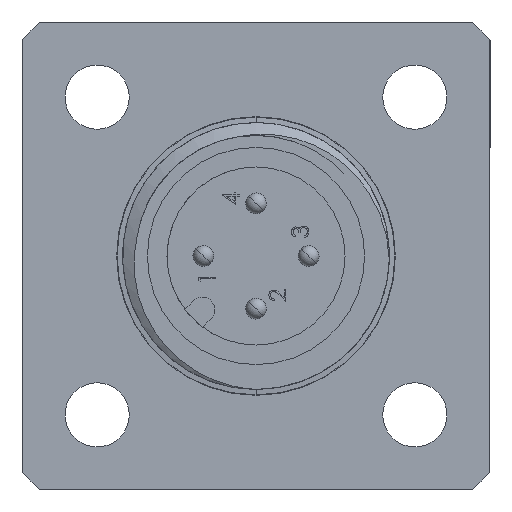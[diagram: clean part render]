
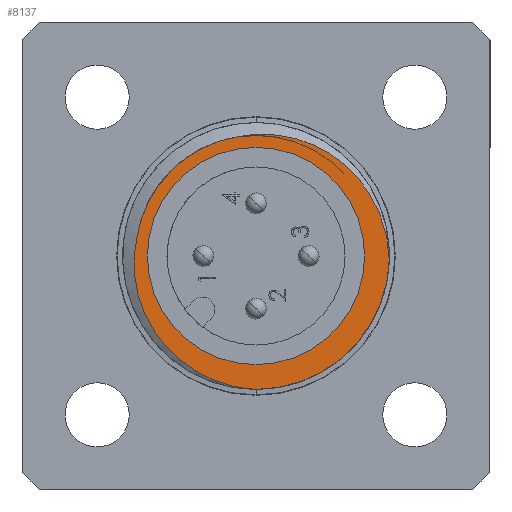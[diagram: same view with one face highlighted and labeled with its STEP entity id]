
A CAD part, left-side view. The second image highlights one B-rep face of the part: STEP entity #8137.
In plain terms, the highlighted planar face has unit normal (-1, 0, 0).
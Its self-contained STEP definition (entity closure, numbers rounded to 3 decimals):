
#104 = CARTESIAN_POINT ( 'NONE',  ( 0., 0., 5.156 ) ) ;
#415 = CARTESIAN_POINT ( 'NONE',  ( 0., 0., -6.333 ) ) ;
#855 = AXIS2_PLACEMENT_3D ( 'NONE', #2556, #2557, #2558 ) ;
#1025 = CIRCLE ( 'NONE', #1027, 5.156 ) ;
#1027 = AXIS2_PLACEMENT_3D ( 'NONE', #5038, #5039, #5040 ) ;
#1213 = VERTEX_POINT ( 'NONE', #1336 ) ;
#1215 = VERTEX_POINT ( 'NONE', #7822 ) ;
#1229 = VERTEX_POINT ( 'NONE', #7979 ) ;
#1336 = CARTESIAN_POINT ( 'NONE',  ( 0., -6.331, -0.176 ) ) ;
#1365 = EDGE_LOOP ( 'NONE', ( #3787, #8441, #8566, #3491 ) ) ;
#1574 = EDGE_LOOP ( 'NONE', ( #3496, #8468 ) ) ;
#1790 = CIRCLE ( 'NONE', #1794, 6.333 ) ;
#1792 = CIRCLE ( 'NONE', #1795, 5.156 ) ;
#1794 = AXIS2_PLACEMENT_3D ( 'NONE', #7360, #7361, #7362 ) ;
#1795 = AXIS2_PLACEMENT_3D ( 'NONE', #7421, #7422, #7423 ) ;
#2544 = FACE_OUTER_BOUND ( 'NONE', #1365, .T. ) ;
#2546 = FACE_BOUND ( 'NONE', #1574, .T. ) ;
#2547 = PLANE ( 'NONE',  #855 ) ;
#2556 = CARTESIAN_POINT ( 'NONE',  ( 0., 4.877, 0. ) ) ;
#2557 = DIRECTION ( 'NONE',  ( 1., 0., 0. ) ) ;
#2558 = DIRECTION ( 'NONE',  ( 0., 0., -1. ) ) ;
#2986 = B_SPLINE_CURVE_WITH_KNOTS ( 'NONE', 3,
 ( #7386, #7385, #7402, #7403, #7404, #7405, #7406, #7407, #7408, #7409, #7410, #7411, #7412, #7413, #7414, #7415, #7416, #7417, #7418, #7419 ),
 .UNSPECIFIED., .F., .F.,
 ( 4, 2, 2, 2, 2, 2, 2, 2, 2, 4 ),
 ( 0., 0.001, 0.002, 0.003, 0.004, 0.005, 0.007, 0.008, 0.009, 0.01 ),
 .UNSPECIFIED. ) ;
#2987 = B_SPLINE_CURVE_WITH_KNOTS ( 'NONE', 3,
 ( #7336, #7363, #7387, #7388, #7389, #7390, #7391, #7392, #7393, #7394, #7395, #7396, #7397, #7398, #7399, #7400 ),
 .UNSPECIFIED., .F., .F.,
 ( 4, 2, 2, 2, 2, 2, 2, 4 ),
 ( 0., 0.001, 0.002, 0.003, 0.004, 0.005, 0.005, 0.007 ),
 .UNSPECIFIED. ) ;
#2989 = B_SPLINE_CURVE_WITH_KNOTS ( 'NONE', 3,
 ( #7352, #7359, #7364, #7365, #7366, #7367, #7368, #7369, #7370, #7371, #7372, #7373, #7374, #7375, #7376, #7377, #7378, #7379, #7380, #7381, #7382, #7383, #7384 ),
 .UNSPECIFIED., .F., .F.,
 ( 4, 2, 2, 2, 2, 2, 1, 2, 2, 2, 2, 4 ),
 ( 0., 0.002, 0.003, 0.004, 0.006, 0.006, 0.007, 0.008, 0.008, 0.01, 0.01, 0.011 ),
 .UNSPECIFIED. ) ;
#3491 = ORIENTED_EDGE ( 'NONE', *, *, #3568, .T. ) ;
#3496 = ORIENTED_EDGE ( 'NONE', *, *, #8044, .F. ) ;
#3563 = EDGE_CURVE ( 'NONE', #8378, #1213, #1790, .T. ) ;
#3564 = EDGE_CURVE ( 'NONE', #1213, #1215, #2989, .T. ) ;
#3565 = EDGE_CURVE ( 'NONE', #1215, #1229, #2987, .T. ) ;
#3568 = EDGE_CURVE ( 'NONE', #1229, #8378, #2986, .T. ) ;
#3569 = EDGE_CURVE ( 'NONE', #7841, #8235, #1792, .T. ) ;
#3787 = ORIENTED_EDGE ( 'NONE', *, *, #3563, .T. ) ;
#4576 = CARTESIAN_POINT ( 'NONE',  ( 0., 0., -5.156 ) ) ;
#5038 = CARTESIAN_POINT ( 'NONE',  ( 0., 0., 0. ) ) ;
#5039 = DIRECTION ( 'NONE',  ( -1., 0., 0. ) ) ;
#5040 = DIRECTION ( 'NONE',  ( 0., 0., -1. ) ) ;
#7336 = CARTESIAN_POINT ( 'NONE',  ( 0., 0.858, 5.659 ) ) ;
#7352 = CARTESIAN_POINT ( 'NONE',  ( 0., -6.331, -0.176 ) ) ;
#7359 = CARTESIAN_POINT ( 'NONE',  ( 0., -6.318, 0.264 ) ) ;
#7360 = CARTESIAN_POINT ( 'NONE',  ( 0., 0., 0. ) ) ;
#7361 = DIRECTION ( 'NONE',  ( -1., 0., 0. ) ) ;
#7362 = DIRECTION ( 'NONE',  ( 0., 0., 1. ) ) ;
#7363 = CARTESIAN_POINT ( 'NONE',  ( 0., 1.156, 5.614 ) ) ;
#7364 = CARTESIAN_POINT ( 'NONE',  ( 0., -6.259, 0.703 ) ) ;
#7365 = CARTESIAN_POINT ( 'NONE',  ( 0., -6.049, 1.563 ) ) ;
#7366 = CARTESIAN_POINT ( 'NONE',  ( 0., -5.901, 1.975 ) ) ;
#7367 = CARTESIAN_POINT ( 'NONE',  ( 0., -5.521, 2.765 ) ) ;
#7368 = CARTESIAN_POINT ( 'NONE',  ( 0., -5.287, 3.146 ) ) ;
#7369 = CARTESIAN_POINT ( 'NONE',  ( 0., -4.748, 3.837 ) ) ;
#7370 = CARTESIAN_POINT ( 'NONE',  ( 0., -4.443, 4.15 ) ) ;
#7371 = CARTESIAN_POINT ( 'NONE',  ( 0., -3.932, 4.571 ) ) ;
#7372 = CARTESIAN_POINT ( 'NONE',  ( 0., -3.752, 4.702 ) ) ;
#7373 = CARTESIAN_POINT ( 'NONE',  ( 0., -3.384, 4.942 ) ) ;
#7374 = CARTESIAN_POINT ( 'NONE',  ( 0., -3.004, 5.159 ) ) ;
#7375 = CARTESIAN_POINT ( 'NONE',  ( 0., -2.602, 5.335 ) ) ;
#7376 = CARTESIAN_POINT ( 'NONE',  ( 0., -2.188, 5.488 ) ) ;
#7377 = CARTESIAN_POINT ( 'NONE',  ( 0., -1.975, 5.554 ) ) ;
#7378 = CARTESIAN_POINT ( 'NONE',  ( 0., -1.335, 5.713 ) ) ;
#7379 = CARTESIAN_POINT ( 'NONE',  ( 0., -0.901, 5.771 ) ) ;
#7380 = CARTESIAN_POINT ( 'NONE',  ( 0., -0.24, 5.786 ) ) ;
#7381 = CARTESIAN_POINT ( 'NONE',  ( 0., -0.017, 5.779 ) ) ;
#7382 = CARTESIAN_POINT ( 'NONE',  ( 0., 0.423, 5.739 ) ) ;
#7383 = CARTESIAN_POINT ( 'NONE',  ( 0., 0.641, 5.705 ) ) ;
#7384 = CARTESIAN_POINT ( 'NONE',  ( 0., 0.858, 5.659 ) ) ;
#7385 = CARTESIAN_POINT ( 'NONE',  ( 0., 5.746, 0.509 ) ) ;
#7386 = CARTESIAN_POINT ( 'NONE',  ( 0., 5.647, 0.938 ) ) ;
#7387 = CARTESIAN_POINT ( 'NONE',  ( 0., 1.45, 5.545 ) ) ;
#7388 = CARTESIAN_POINT ( 'NONE',  ( 0., 2.023, 5.363 ) ) ;
#7389 = CARTESIAN_POINT ( 'NONE',  ( 0., 2.303, 5.249 ) ) ;
#7390 = CARTESIAN_POINT ( 'NONE',  ( 0., 2.837, 4.98 ) ) ;
#7391 = CARTESIAN_POINT ( 'NONE',  ( 0., 3.091, 4.827 ) ) ;
#7392 = CARTESIAN_POINT ( 'NONE',  ( 0., 3.575, 4.48 ) ) ;
#7393 = CARTESIAN_POINT ( 'NONE',  ( 0., 3.805, 4.286 ) ) ;
#7394 = CARTESIAN_POINT ( 'NONE',  ( 0., 4.233, 3.864 ) ) ;
#7395 = CARTESIAN_POINT ( 'NONE',  ( 0., 4.431, 3.636 ) ) ;
#7396 = CARTESIAN_POINT ( 'NONE',  ( 0., 4.787, 3.153 ) ) ;
#7397 = CARTESIAN_POINT ( 'NONE',  ( 0., 4.944, 2.9 ) ) ;
#7398 = CARTESIAN_POINT ( 'NONE',  ( 0., 5.354, 2.109 ) ) ;
#7399 = CARTESIAN_POINT ( 'NONE',  ( 0., 5.548, 1.532 ) ) ;
#7400 = CARTESIAN_POINT ( 'NONE',  ( 0., 5.647, 0.938 ) ) ;
#7402 = CARTESIAN_POINT ( 'NONE',  ( 0., 5.795, 0.076 ) ) ;
#7403 = CARTESIAN_POINT ( 'NONE',  ( 0., 5.796, -0.58 ) ) ;
#7404 = CARTESIAN_POINT ( 'NONE',  ( 0., 5.783, -0.801 ) ) ;
#7405 = CARTESIAN_POINT ( 'NONE',  ( 0., 5.734, -1.236 ) ) ;
#7406 = CARTESIAN_POINT ( 'NONE',  ( 0., 5.697, -1.451 ) ) ;
#7407 = CARTESIAN_POINT ( 'NONE',  ( 0., 5.55, -2.088 ) ) ;
#7408 = CARTESIAN_POINT ( 'NONE',  ( 0., 5.401, -2.506 ) ) ;
#7409 = CARTESIAN_POINT ( 'NONE',  ( 0., 5.02, -3.288 ) ) ;
#7410 = CARTESIAN_POINT ( 'NONE',  ( 0., 4.788, -3.657 ) ) ;
#7411 = CARTESIAN_POINT ( 'NONE',  ( 0., 4.244, -4.347 ) ) ;
#7412 = CARTESIAN_POINT ( 'NONE',  ( 0., 3.939, -4.658 ) ) ;
#7413 = CARTESIAN_POINT ( 'NONE',  ( 0., 3.269, -5.212 ) ) ;
#7414 = CARTESIAN_POINT ( 'NONE',  ( 0., 2.899, -5.456 ) ) ;
#7415 = CARTESIAN_POINT ( 'NONE',  ( 0., 2.126, -5.856 ) ) ;
#7416 = CARTESIAN_POINT ( 'NONE',  ( 0., 1.722, -6.013 ) ) ;
#7417 = CARTESIAN_POINT ( 'NONE',  ( 0., 0.877, -6.242 ) ) ;
#7418 = CARTESIAN_POINT ( 'NONE',  ( 0., 0.439, -6.312 ) ) ;
#7419 = CARTESIAN_POINT ( 'NONE',  ( 0., 0., -6.333 ) ) ;
#7421 = CARTESIAN_POINT ( 'NONE',  ( 0., 0., 0. ) ) ;
#7422 = DIRECTION ( 'NONE',  ( -1., 0., 0. ) ) ;
#7423 = DIRECTION ( 'NONE',  ( 0., 0., -1. ) ) ;
#7822 = CARTESIAN_POINT ( 'NONE',  ( 0., 0.858, 5.659 ) ) ;
#7841 = VERTEX_POINT ( 'NONE', #4576 ) ;
#7979 = CARTESIAN_POINT ( 'NONE',  ( 0., 5.647, 0.938 ) ) ;
#8044 = EDGE_CURVE ( 'NONE', #8235, #7841, #1025, .T. ) ;
#8137 = ADVANCED_FACE ( 'NONE', ( #2544, #2546 ), #2547, .F. ) ;
#8235 = VERTEX_POINT ( 'NONE', #104 ) ;
#8378 = VERTEX_POINT ( 'NONE', #415 ) ;
#8441 = ORIENTED_EDGE ( 'NONE', *, *, #3564, .T. ) ;
#8468 = ORIENTED_EDGE ( 'NONE', *, *, #3569, .F. ) ;
#8566 = ORIENTED_EDGE ( 'NONE', *, *, #3565, .T. ) ;
